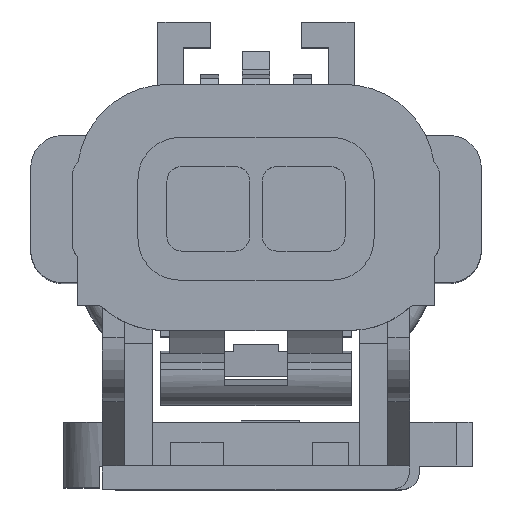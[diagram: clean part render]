
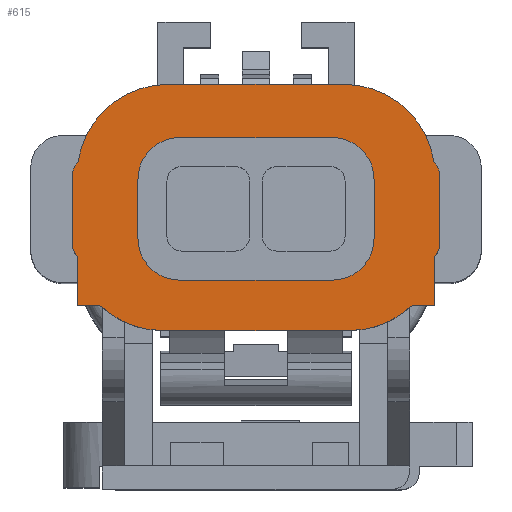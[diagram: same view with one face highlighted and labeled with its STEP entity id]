
A CAD part, top view. The second image highlights one B-rep face of the part: STEP entity #615.
In plain terms, the highlighted planar face has unit normal (0, 0, 1).
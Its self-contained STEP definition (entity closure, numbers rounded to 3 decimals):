
#615=ADVANCED_FACE('',(#1084,#1085),#936,.T.);
#936=PLANE('',#7107);
#1084=FACE_BOUND('',#1253,.T.);
#1085=FACE_BOUND('',#1254,.T.);
#1253=EDGE_LOOP('',(#2536,#2537,#2538,#2539,#2540,#2541,#2542,#2543,#2544,
#2545,#2546,#2547,#2548,#2549,#2550,#2551));
#1254=EDGE_LOOP('',(#2552,#2553,#2554,#2555,#2556,#2557,#2558,#2559));
#1504=CIRCLE('',#7088,2.3);
#1505=CIRCLE('',#7091,2.3);
#1506=CIRCLE('',#7094,2.3);
#1507=CIRCLE('',#7097,2.3);
#1508=CIRCLE('',#7099,1.);
#1509=CIRCLE('',#7100,5.);
#1510=CIRCLE('',#7101,5.);
#1511=CIRCLE('',#7102,1.);
#1512=CIRCLE('',#7103,1.);
#1513=CIRCLE('',#7104,5.);
#1514=CIRCLE('',#7105,5.);
#1515=CIRCLE('',#7106,1.);
#2536=ORIENTED_EDGE('',*,*,#4756,.F.);
#2537=ORIENTED_EDGE('',*,*,#4757,.F.);
#2538=ORIENTED_EDGE('',*,*,#4758,.T.);
#2539=ORIENTED_EDGE('',*,*,#4759,.T.);
#2540=ORIENTED_EDGE('',*,*,#4760,.T.);
#2541=ORIENTED_EDGE('',*,*,#4761,.F.);
#2542=ORIENTED_EDGE('',*,*,#4762,.F.);
#2543=ORIENTED_EDGE('',*,*,#4763,.F.);
#2544=ORIENTED_EDGE('',*,*,#4764,.T.);
#2545=ORIENTED_EDGE('',*,*,#4765,.T.);
#2546=ORIENTED_EDGE('',*,*,#4766,.T.);
#2547=ORIENTED_EDGE('',*,*,#4767,.T.);
#2548=ORIENTED_EDGE('',*,*,#4768,.T.);
#2549=ORIENTED_EDGE('',*,*,#4769,.T.);
#2550=ORIENTED_EDGE('',*,*,#4770,.T.);
#2551=ORIENTED_EDGE('',*,*,#4771,.F.);
#2552=ORIENTED_EDGE('',*,*,#4755,.F.);
#2553=ORIENTED_EDGE('',*,*,#4753,.F.);
#2554=ORIENTED_EDGE('',*,*,#4751,.F.);
#2555=ORIENTED_EDGE('',*,*,#4749,.F.);
#2556=ORIENTED_EDGE('',*,*,#4747,.F.);
#2557=ORIENTED_EDGE('',*,*,#4745,.F.);
#2558=ORIENTED_EDGE('',*,*,#4743,.F.);
#2559=ORIENTED_EDGE('',*,*,#4741,.F.);
#3942=VERTEX_POINT('',#10299);
#3943=VERTEX_POINT('',#10301);
#3944=VERTEX_POINT('',#10305);
#3945=VERTEX_POINT('',#10309);
#3946=VERTEX_POINT('',#10313);
#3947=VERTEX_POINT('',#10317);
#3948=VERTEX_POINT('',#10321);
#3949=VERTEX_POINT('',#10325);
#3950=VERTEX_POINT('',#10331);
#3951=VERTEX_POINT('',#10332);
#3952=VERTEX_POINT('',#10334);
#3953=VERTEX_POINT('',#10336);
#3954=VERTEX_POINT('',#10338);
#3955=VERTEX_POINT('',#10340);
#3956=VERTEX_POINT('',#10342);
#3957=VERTEX_POINT('',#10344);
#3958=VERTEX_POINT('',#10346);
#3959=VERTEX_POINT('',#10348);
#3960=VERTEX_POINT('',#10350);
#3961=VERTEX_POINT('',#10352);
#3962=VERTEX_POINT('',#10354);
#3963=VERTEX_POINT('',#10356);
#3964=VERTEX_POINT('',#10358);
#3965=VERTEX_POINT('',#10360);
#4741=EDGE_CURVE('',#3942,#3943,#5665,.T.);
#4743=EDGE_CURVE('',#3943,#3944,#1504,.T.);
#4745=EDGE_CURVE('',#3944,#3945,#5668,.T.);
#4747=EDGE_CURVE('',#3945,#3946,#1505,.T.);
#4749=EDGE_CURVE('',#3946,#3947,#5671,.T.);
#4751=EDGE_CURVE('',#3947,#3948,#1506,.T.);
#4753=EDGE_CURVE('',#3948,#3949,#5674,.T.);
#4755=EDGE_CURVE('',#3949,#3942,#1507,.T.);
#4756=EDGE_CURVE('',#3950,#3951,#5676,.T.);
#4757=EDGE_CURVE('',#3952,#3950,#1508,.T.);
#4758=EDGE_CURVE('',#3952,#3953,#1509,.T.);
#4759=EDGE_CURVE('',#3953,#3954,#5677,.T.);
#4760=EDGE_CURVE('',#3954,#3955,#1510,.T.);
#4761=EDGE_CURVE('',#3956,#3955,#1511,.T.);
#4762=EDGE_CURVE('',#3957,#3956,#5678,.T.);
#4763=EDGE_CURVE('',#3958,#3957,#1512,.T.);
#4764=EDGE_CURVE('',#3958,#3959,#5679,.T.);
#4765=EDGE_CURVE('',#3959,#3960,#5680,.T.);
#4766=EDGE_CURVE('',#3960,#3961,#1513,.T.);
#4767=EDGE_CURVE('',#3961,#3962,#5681,.T.);
#4768=EDGE_CURVE('',#3962,#3963,#1514,.T.);
#4769=EDGE_CURVE('',#3963,#3964,#5682,.T.);
#4770=EDGE_CURVE('',#3964,#3965,#5683,.T.);
#4771=EDGE_CURVE('',#3951,#3965,#1515,.T.);
#5665=LINE('',#10300,#6499);
#5668=LINE('',#10308,#6502);
#5671=LINE('',#10316,#6505);
#5674=LINE('',#10324,#6508);
#5676=LINE('',#10330,#6510);
#5677=LINE('',#10337,#6511);
#5678=LINE('',#10343,#6512);
#5679=LINE('',#10347,#6513);
#5680=LINE('',#10349,#6514);
#5681=LINE('',#10353,#6515);
#5682=LINE('',#10357,#6516);
#5683=LINE('',#10359,#6517);
#6499=VECTOR('',#8254,1.);
#6502=VECTOR('',#8263,1.);
#6505=VECTOR('',#8272,1.);
#6508=VECTOR('',#8281,1.);
#6510=VECTOR('',#8289,1.);
#6511=VECTOR('',#8294,1.);
#6512=VECTOR('',#8299,1.);
#6513=VECTOR('',#8302,1.);
#6514=VECTOR('',#8303,1.);
#6515=VECTOR('',#8306,1.);
#6516=VECTOR('',#8309,1.);
#6517=VECTOR('',#8310,1.);
#7088=AXIS2_PLACEMENT_3D('',#10304,#8258,#8259);
#7091=AXIS2_PLACEMENT_3D('',#10312,#8267,#8268);
#7094=AXIS2_PLACEMENT_3D('',#10320,#8276,#8277);
#7097=AXIS2_PLACEMENT_3D('',#10328,#8285,#8286);
#7099=AXIS2_PLACEMENT_3D('',#10333,#8290,#8291);
#7100=AXIS2_PLACEMENT_3D('',#10335,#8292,#8293);
#7101=AXIS2_PLACEMENT_3D('',#10339,#8295,#8296);
#7102=AXIS2_PLACEMENT_3D('',#10341,#8297,#8298);
#7103=AXIS2_PLACEMENT_3D('',#10345,#8300,#8301);
#7104=AXIS2_PLACEMENT_3D('',#10351,#8304,#8305);
#7105=AXIS2_PLACEMENT_3D('',#10355,#8307,#8308);
#7106=AXIS2_PLACEMENT_3D('',#10361,#8311,#8312);
#7107=AXIS2_PLACEMENT_3D('',#10362,#8313,#8314);
#8254=DIRECTION('',(0.,1.,0.));
#8258=DIRECTION('',(0.,0.,1.));
#8259=DIRECTION('',(0.,-1.,0.));
#8263=DIRECTION('',(-1.,0.,0.));
#8267=DIRECTION('',(0.,0.,1.));
#8268=DIRECTION('',(0.,-1.,0.));
#8272=DIRECTION('',(0.,-1.,0.));
#8276=DIRECTION('',(0.,0.,1.));
#8277=DIRECTION('',(0.,-1.,0.));
#8281=DIRECTION('',(1.,0.,0.));
#8285=DIRECTION('',(0.,0.,1.));
#8286=DIRECTION('',(0.,-1.,0.));
#8289=DIRECTION('',(0.,-1.,0.));
#8290=DIRECTION('',(0.,0.,-1.));
#8291=DIRECTION('',(0.,-1.,0.));
#8292=DIRECTION('',(0.,0.,1.));
#8293=DIRECTION('',(1.,0.,0.));
#8294=DIRECTION('',(-1.,0.,0.));
#8295=DIRECTION('',(0.,0.,1.));
#8296=DIRECTION('',(1.,0.,0.));
#8297=DIRECTION('',(0.,0.,-1.));
#8298=DIRECTION('',(0.,-1.,0.));
#8299=DIRECTION('',(0.,1.,0.));
#8300=DIRECTION('',(0.,0.,-1.));
#8301=DIRECTION('',(0.,-1.,0.));
#8302=DIRECTION('',(0.,-1.,0.));
#8303=DIRECTION('',(1.,0.,0.));
#8304=DIRECTION('',(0.,0.,1.));
#8305=DIRECTION('',(1.,0.,0.));
#8306=DIRECTION('',(1.,0.,0.));
#8307=DIRECTION('',(0.,0.,1.));
#8308=DIRECTION('',(1.,0.,0.));
#8309=DIRECTION('',(1.,0.,0.));
#8310=DIRECTION('',(0.,1.,0.));
#8311=DIRECTION('',(0.,0.,-1.));
#8312=DIRECTION('',(0.,-1.,0.));
#8313=DIRECTION('',(0.,0.,1.));
#8314=DIRECTION('',(0.,1.,0.));
#10299=CARTESIAN_POINT('',(6.5,-1.625,37.75));
#10300=CARTESIAN_POINT('',(6.5,-6.615,37.75));
#10301=CARTESIAN_POINT('',(6.5,1.625,37.75));
#10304=CARTESIAN_POINT('',(4.2,1.625,37.75));
#10305=CARTESIAN_POINT('',(4.2,3.925,37.75));
#10308=CARTESIAN_POINT('',(11.52,3.925,37.75));
#10309=CARTESIAN_POINT('',(-4.2,3.925,37.75));
#10312=CARTESIAN_POINT('',(-4.2,1.625,37.75));
#10313=CARTESIAN_POINT('',(-6.5,1.625,37.75));
#10316=CARTESIAN_POINT('',(-6.5,-6.615,37.75));
#10317=CARTESIAN_POINT('',(-6.5,-1.625,37.75));
#10320=CARTESIAN_POINT('',(-4.2,-1.625,37.75));
#10321=CARTESIAN_POINT('',(-4.2,-3.925,37.75));
#10324=CARTESIAN_POINT('',(11.52,-3.925,37.75));
#10325=CARTESIAN_POINT('',(4.2,-3.925,37.75));
#10328=CARTESIAN_POINT('',(4.2,-1.625,37.75));
#10330=CARTESIAN_POINT('',(10.1,-2.32,37.75));
#10331=CARTESIAN_POINT('',(10.1,1.879,37.75));
#10332=CARTESIAN_POINT('',(10.1,-1.939,37.75));
#10333=CARTESIAN_POINT('',(9.1,1.879,37.75));
#10334=CARTESIAN_POINT('',(9.793,2.6,37.75));
#10335=CARTESIAN_POINT('',(4.85,1.85,37.75));
#10336=CARTESIAN_POINT('',(4.85,6.85,37.75));
#10337=CARTESIAN_POINT('',(11.52,6.85,37.75));
#10338=CARTESIAN_POINT('',(-4.85,6.85,37.75));
#10339=CARTESIAN_POINT('',(-4.85,1.85,37.75));
#10340=CARTESIAN_POINT('',(-9.793,2.6,37.75));
#10341=CARTESIAN_POINT('',(-9.1,1.879,37.75));
#10342=CARTESIAN_POINT('',(-10.1,1.879,37.75));
#10343=CARTESIAN_POINT('',(-10.1,2.261,37.75));
#10344=CARTESIAN_POINT('',(-10.1,-1.939,37.75));
#10345=CARTESIAN_POINT('',(-9.1,-1.939,37.75));
#10346=CARTESIAN_POINT('',(-9.85,-2.6,37.75));
#10347=CARTESIAN_POINT('',(-9.85,-6.615,37.75));
#10348=CARTESIAN_POINT('',(-9.85,-5.3,37.75));
#10349=CARTESIAN_POINT('',(11.52,-5.3,37.75));
#10350=CARTESIAN_POINT('',(-8.6,-5.3,37.75));
#10351=CARTESIAN_POINT('',(-5.13,-1.7,37.75));
#10352=CARTESIAN_POINT('',(-5.13,-6.7,37.75));
#10353=CARTESIAN_POINT('',(11.52,-6.7,37.75));
#10354=CARTESIAN_POINT('',(5.13,-6.7,37.75));
#10355=CARTESIAN_POINT('',(5.13,-1.7,37.75));
#10356=CARTESIAN_POINT('',(8.6,-5.3,37.75));
#10357=CARTESIAN_POINT('',(11.52,-5.3,37.75));
#10358=CARTESIAN_POINT('',(9.85,-5.3,37.75));
#10359=CARTESIAN_POINT('',(9.85,-6.615,37.75));
#10360=CARTESIAN_POINT('',(9.85,-2.6,37.75));
#10361=CARTESIAN_POINT('',(9.1,-1.939,37.75));
#10362=CARTESIAN_POINT('',(11.52,-6.615,37.75));
